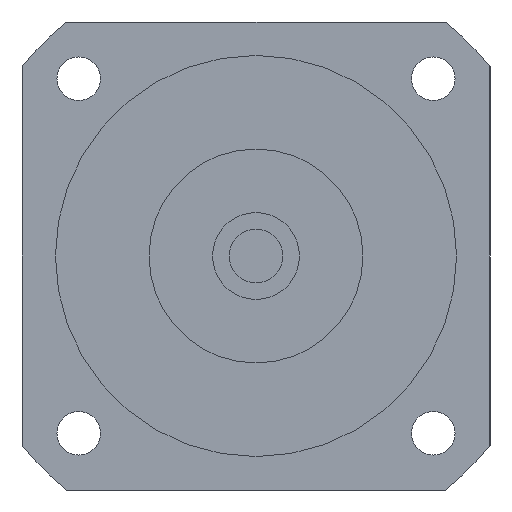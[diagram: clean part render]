
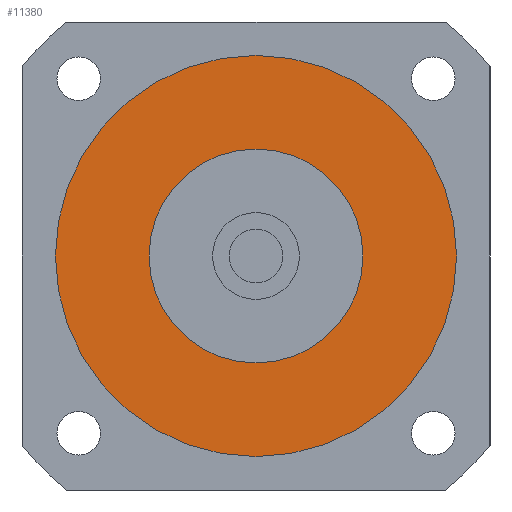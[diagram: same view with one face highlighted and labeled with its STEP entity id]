
A CAD part, left-side view. The second image highlights one B-rep face of the part: STEP entity #11380.
In plain terms, the highlighted planar face has unit normal (-1, 0, 0) as drawn and (0, 0, -1) by its records, which use the part's own axes.
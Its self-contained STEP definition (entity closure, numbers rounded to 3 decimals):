
#10720=CARTESIAN_POINT('',(-16.,0.,-32.));
#10730=VERTEX_POINT('',#10720);
#10780=CARTESIAN_POINT('',(0.,0.,
-32.));
#10790=DIRECTION('',(0.,0.,1.));
#10800=DIRECTION('',(0.,1.,0.));
#10810=AXIS2_PLACEMENT_3D('',#10780,#10790,#10800);
#10820=CIRCLE('',#10810,16.);
#10830=CARTESIAN_POINT('',(16.,0.,-32.));
#10840=VERTEX_POINT('',#10830);
#10850=EDGE_CURVE('',#10730,#10840,#10820,.T.);
#11050=CARTESIAN_POINT('',(0.,0.,
-32.));
#11060=DIRECTION('',(0.,0.,1.));
#11070=DIRECTION('',(-1.,0.,0.));
#11080=AXIS2_PLACEMENT_3D('',#11050,#11060,#11070);
#11090=PLANE('',#11080);
#11100=CARTESIAN_POINT('',(0.,0.,
-32.));
#11110=DIRECTION('',(0.,0.,1.));
#11120=DIRECTION('',(0.,1.,0.));
#11130=AXIS2_PLACEMENT_3D('',#11100,#11110,#11120);
#11140=CIRCLE('',#11130,30.);
#11150=CARTESIAN_POINT('',(0.,30.,-32.));
#11160=VERTEX_POINT('',#11150);
#11170=CARTESIAN_POINT('',(-30.,0.,-32.));
#11180=VERTEX_POINT('',#11170);
#11190=EDGE_CURVE('',#11160,#11180,#11140,.T.);
#11200=ORIENTED_EDGE('',*,*,#11190,.F.);
#11210=CARTESIAN_POINT('',(30.,0.,-32.));
#11220=VERTEX_POINT('',#11210);
#11230=EDGE_CURVE('',#11180,#11220,#11140,.T.);
#11240=ORIENTED_EDGE('',*,*,#11230,.F.);
#11250=EDGE_CURVE('',#11220,#11160,#11140,.T.);
#11260=ORIENTED_EDGE('',*,*,#11250,.F.);
#11270=EDGE_LOOP('',(#11260,#11240,#11200));
#11280=FACE_OUTER_BOUND('',#11270,.T.);
#11290=ORIENTED_EDGE('',*,*,#10850,.T.);
#11300=CARTESIAN_POINT('',(0.,16.,-32.));
#11310=VERTEX_POINT('',#11300);
#11320=EDGE_CURVE('',#11310,#10730,#10820,.T.);
#11330=ORIENTED_EDGE('',*,*,#11320,.T.);
#11340=EDGE_CURVE('',#10840,#11310,#10820,.T.);
#11350=ORIENTED_EDGE('',*,*,#11340,.T.);
#11360=EDGE_LOOP('',(#11350,#11330,#11290));
#11370=FACE_BOUND('',#11360,.T.);
#11380=ADVANCED_FACE('',(#11280,#11370),#11090,.F.);
